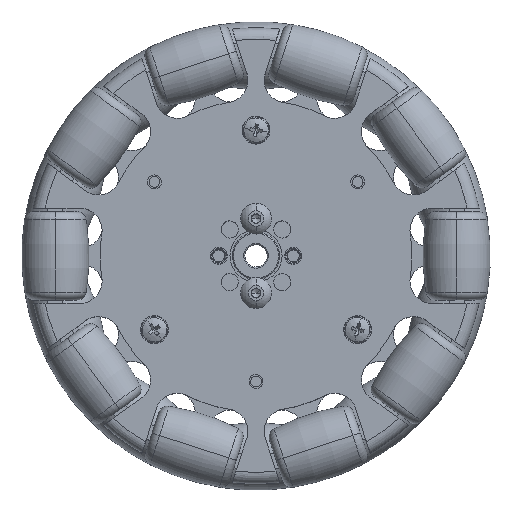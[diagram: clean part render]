
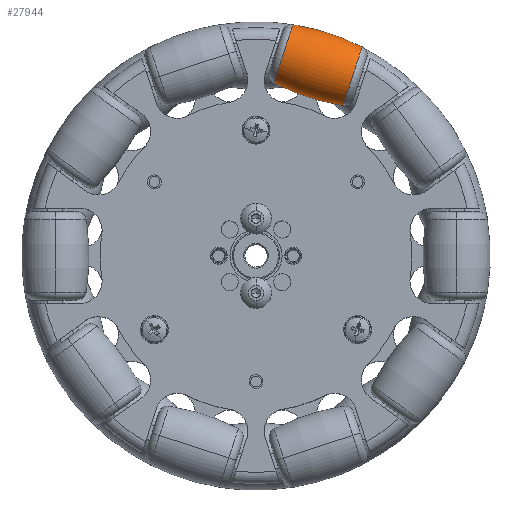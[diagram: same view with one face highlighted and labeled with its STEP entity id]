
A CAD part, top view. The second image highlights one B-rep face of the part: STEP entity #27944.
In plain terms, the highlighted toroidal (fillet/blend) face has major radius 41.884 mm and minor radius 49.112 mm.
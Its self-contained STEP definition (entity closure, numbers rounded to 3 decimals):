
#217 = FACE_OUTER_BOUND ( 'NONE', #32106, .T. ) ;
#556 = ORIENTED_EDGE ( 'NONE', *, *, #66522, .T. ) ;
#561 = CARTESIAN_POINT ( 'NONE',  ( 28.265, 49.917, 24.848 ) ) ;
#3576 = CIRCLE ( 'NONE', #7360, 49.112 ) ;
#5209 = VERTEX_POINT ( 'NONE', #50828 ) ;
#6354 = CIRCLE ( 'NONE', #80097, 6.601 ) ;
#7011 = DIRECTION ( 'NONE',  ( 0.307, 0.952, 0. ) ) ;
#7360 = AXIS2_PLACEMENT_3D ( 'NONE', #73193, #34906, #79533 ) ;
#9143 = VERTEX_POINT ( 'NONE', #31295 ) ;
#9450 = CIRCLE ( 'NONE', #71890, 6.601 ) ;
#11291 = VERTEX_POINT ( 'NONE', #59290 ) ;
#12271 = AXIS2_PLACEMENT_3D ( 'NONE', #55698, #17163, #62101 ) ;
#16048 = DIRECTION ( 'NONE',  ( 0.307, 0.952, 0. ) ) ;
#17163 = DIRECTION ( 'NONE',  ( 0., 0., 1. ) ) ;
#21051 = DIRECTION ( 'NONE',  ( 0.952, -0.307, 0. ) ) ;
#27944 = ADVANCED_FACE ( 'NONE', ( #217 ), #28381, .T. ) ;
#28381 = TOROIDAL_SURFACE ( 'NONE', #29572, -41.884, 49.112 ) ;
#29572 = AXIS2_PLACEMENT_3D ( 'NONE', #60776, #54612, #16048 ) ;
#31295 = CARTESIAN_POINT ( 'NONE',  ( 11.356, 48.444, 24.848 ) ) ;
#32106 = EDGE_LOOP ( 'NONE', ( #75512, #66851, #556, #41338 ) ) ;
#34711 = CARTESIAN_POINT ( 'NONE',  ( 26.236, 43.636, 24.848 ) ) ;
#34906 = DIRECTION ( 'NONE',  ( 0., 0., -1. ) ) ;
#41338 = ORIENTED_EDGE ( 'NONE', *, *, #66863, .T. ) ;
#45544 = DIRECTION ( 'NONE',  ( -0.952, 0.307, 0. ) ) ;
#50828 = CARTESIAN_POINT ( 'NONE',  ( 30.295, 56.199, 24.848 ) ) ;
#54612 = DIRECTION ( 'NONE',  ( -0.952, 0.307, 0. ) ) ;
#55698 = CARTESIAN_POINT ( 'NONE',  ( 7.947, 12.466, 24.848 ) ) ;
#58843 = CIRCLE ( 'NONE', #12271, 49.112 ) ;
#59290 = CARTESIAN_POINT ( 'NONE',  ( 15.416, 61.007, 24.848 ) ) ;
#59599 = CARTESIAN_POINT ( 'NONE',  ( 13.386, 54.725, 24.848 ) ) ;
#60776 = CARTESIAN_POINT ( 'NONE',  ( 20.826, 52.321, 24.848 ) ) ;
#62101 = DIRECTION ( 'NONE',  ( 1., 0., 0. ) ) ;
#65926 = DIRECTION ( 'NONE',  ( -0.307, -0.952, 0. ) ) ;
#66421 = EDGE_CURVE ( 'NONE', #75095, #9143, #3576, .T. ) ;
#66522 = EDGE_CURVE ( 'NONE', #5209, #11291, #58843, .T. ) ;
#66772 = EDGE_CURVE ( 'NONE', #75095, #5209, #9450, .T. ) ;
#66851 = ORIENTED_EDGE ( 'NONE', *, *, #66772, .T. ) ;
#66863 = EDGE_CURVE ( 'NONE', #11291, #9143, #6354, .T. ) ;
#71890 = AXIS2_PLACEMENT_3D ( 'NONE', #561, #45544, #7011 ) ;
#73193 = CARTESIAN_POINT ( 'NONE',  ( 33.705, 92.176, 24.848 ) ) ;
#75095 = VERTEX_POINT ( 'NONE', #34711 ) ;
#75512 = ORIENTED_EDGE ( 'NONE', *, *, #66421, .F. ) ;
#79533 = DIRECTION ( 'NONE',  ( 0., 1., 0. ) ) ;
#80097 = AXIS2_PLACEMENT_3D ( 'NONE', #59599, #21051, #65926 ) ;
